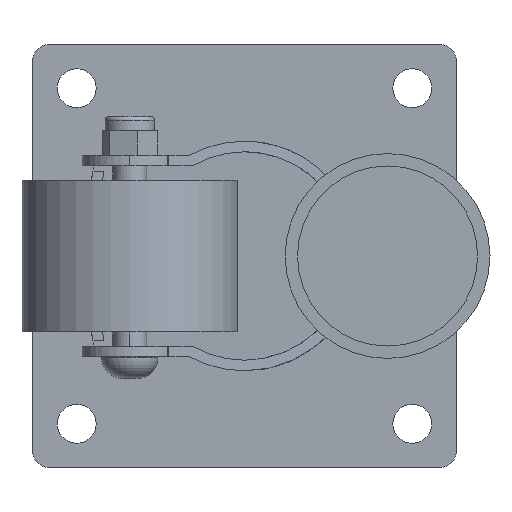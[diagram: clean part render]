
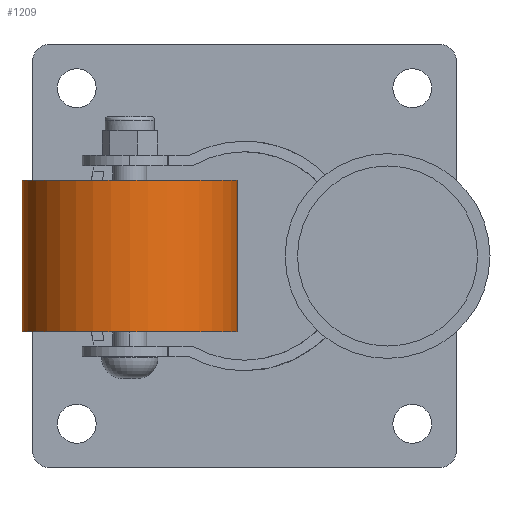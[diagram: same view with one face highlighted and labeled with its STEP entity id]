
A CAD part, front view. The second image highlights one B-rep face of the part: STEP entity #1209.
In plain terms, the highlighted cylindrical face has radius 30.5 mm (diameter 61 mm), a partial arc.
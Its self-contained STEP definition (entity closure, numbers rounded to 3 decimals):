
#40 = VECTOR ( 'NONE', #1807, 1000. ) ;
#68 = VERTEX_POINT ( 'NONE', #1426 ) ;
#81 = VERTEX_POINT ( 'NONE', #4304 ) ;
#136 = ORIENTED_EDGE ( 'NONE', *, *, #3780, .T. ) ;
#832 = EDGE_CURVE ( 'NONE', #81, #4895, #2638, .T. ) ;
#864 = CYLINDRICAL_SURFACE ( 'NONE', #4150, 30.5 ) ;
#955 = DIRECTION ( 'NONE',  ( 0., 0., 1. ) ) ;
#984 = ORIENTED_EDGE ( 'NONE', *, *, #4683, .F. ) ;
#985 = FACE_OUTER_BOUND ( 'NONE', #1203, .T. ) ;
#1203 = EDGE_LOOP ( 'NONE', ( #984, #1239, #136, #2449 ) ) ;
#1209 = ADVANCED_FACE ( 'NONE', ( #985 ), #864, .T. ) ;
#1239 = ORIENTED_EDGE ( 'NONE', *, *, #3371, .F. ) ;
#1404 = DIRECTION ( 'NONE',  ( 1., 0., 0. ) ) ;
#1426 = CARTESIAN_POINT ( 'NONE',  ( 270.507, 116.026, -61.5 ) ) ;
#1807 = DIRECTION ( 'NONE',  ( 0., 0., 1. ) ) ;
#1828 = VECTOR ( 'NONE', #955, 1000. ) ;
#1873 = CARTESIAN_POINT ( 'NONE',  ( 270.507, 116.026, -18.5 ) ) ;
#2100 = DIRECTION ( 'NONE',  ( 0., 0., 1. ) ) ;
#2121 = CARTESIAN_POINT ( 'NONE',  ( 240.007, 116.026, -61.5 ) ) ;
#2449 = ORIENTED_EDGE ( 'NONE', *, *, #832, .F. ) ;
#2483 = DIRECTION ( 'NONE',  ( -1., 0., 0. ) ) ;
#2518 = CARTESIAN_POINT ( 'NONE',  ( 240.007, 116.026, -171.566 ) ) ;
#2638 = CIRCLE ( 'NONE', #4086, 30.5 ) ;
#2832 = CARTESIAN_POINT ( 'NONE',  ( 209.507, 116.026, -61.5 ) ) ;
#3202 = CARTESIAN_POINT ( 'NONE',  ( 209.507, 116.026, -171.566 ) ) ;
#3316 = VERTEX_POINT ( 'NONE', #2832 ) ;
#3371 = EDGE_CURVE ( 'NONE', #68, #3316, #3658, .T. ) ;
#3640 = AXIS2_PLACEMENT_3D ( 'NONE', #2121, #4707, #2483 ) ;
#3658 = CIRCLE ( 'NONE', #3640, 30.5 ) ;
#3780 = EDGE_CURVE ( 'NONE', #68, #4895, #4107, .T. ) ;
#3824 = LINE ( 'NONE', #3202, #1828 ) ;
#4086 = AXIS2_PLACEMENT_3D ( 'NONE', #4310, #2100, #4693 ) ;
#4107 = LINE ( 'NONE', #4786, #40 ) ;
#4150 = AXIS2_PLACEMENT_3D ( 'NONE', #2518, #4740, #1404 ) ;
#4304 = CARTESIAN_POINT ( 'NONE',  ( 209.507, 116.026, -18.5 ) ) ;
#4310 = CARTESIAN_POINT ( 'NONE',  ( 240.007, 116.026, -18.5 ) ) ;
#4683 = EDGE_CURVE ( 'NONE', #3316, #81, #3824, .T. ) ;
#4693 = DIRECTION ( 'NONE',  ( 1., 0., 0. ) ) ;
#4707 = DIRECTION ( 'NONE',  ( 0., 0., -1. ) ) ;
#4740 = DIRECTION ( 'NONE',  ( 0., 0., 1. ) ) ;
#4786 = CARTESIAN_POINT ( 'NONE',  ( 270.507, 116.026, -171.566 ) ) ;
#4895 = VERTEX_POINT ( 'NONE', #1873 ) ;
